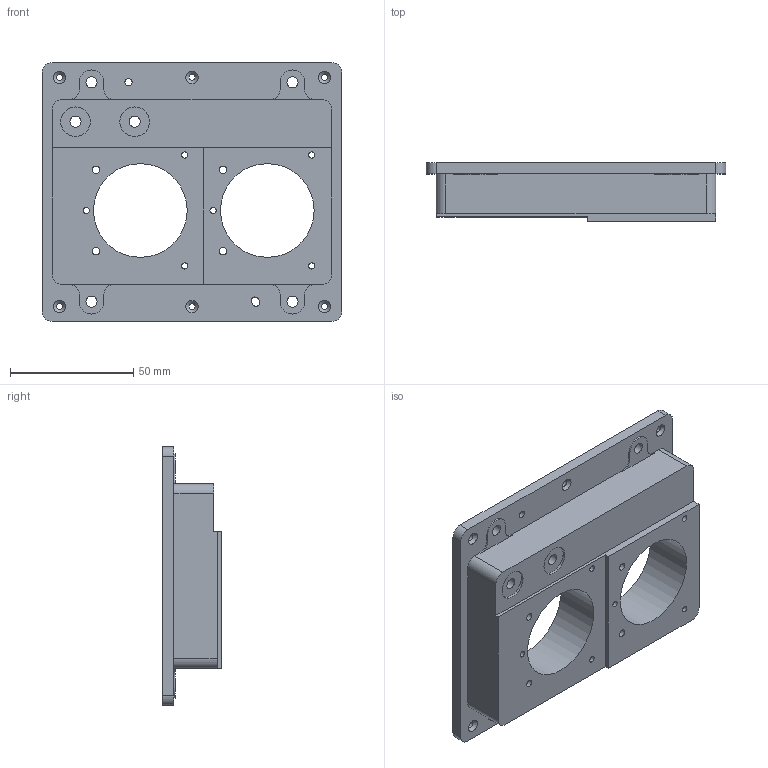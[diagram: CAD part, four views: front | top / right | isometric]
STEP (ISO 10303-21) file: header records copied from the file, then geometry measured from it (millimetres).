
FILE_DESCRIPTION(/* description */ (''),/* implementation_level */ '2;1');
FILE_NAME(/* name */ 'C:\Users\strothej\Documents\ActualDocuments\MicroscopeParts\TwoPhotonSystem\ScanningMechanics\v29\Drawings\Filter_Holder_Front.stp',/* time_stamp */ '2017-06-22T11:48:30-07:00',/* author */ ('strothej'),/* organization */ (''),/* preprocessor_version */ 'ST-DEVELOPER v16.1',/* originating_system */ 'Autodesk Inventor 2016',/* authorisation */ '');
FILE_SCHEMA (('AUTOMOTIVE_DESIGN { 1 0 10303 214 3 1 1 }'));
Length unit declared in the file: millimetre
Products named in the file (1): Filter_Holder_Front
Bounding box: 121.5 x 23.7 x 105 mm (x, y, z)
Volume: 97187.7 mm3; surface area: 42848 mm2
Topology: 1 solids, 1 shells, 127 faces, 370 edges, 251 vertices
Faces by surface type: cylinder 74, plane 47, cone 6
Full cylindrical faces by diameter (mm): 2.5 x12, 3 x5, 4.3 x2, 4.5 x6, 12 x2, 38 x2
Entity records: 4065 total; most frequent: DIRECTION 727, CARTESIAN_POINT 676, ORIENTED_EDGE 632, EDGE_CURVE 316, AXIS2_PLACEMENT_3D 283, VERTEX_POINT 232, EDGE_LOOP 220, LINE 161
